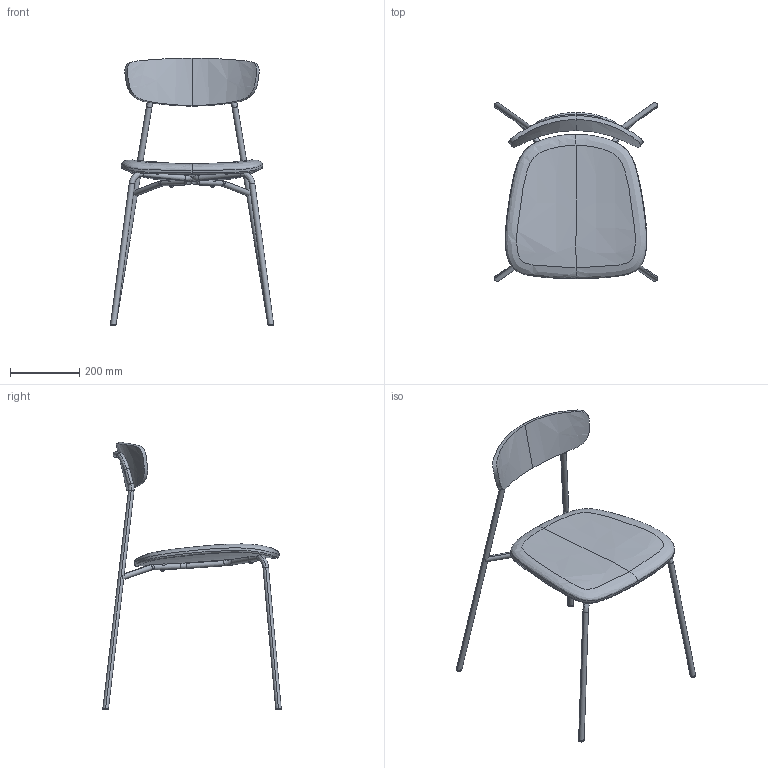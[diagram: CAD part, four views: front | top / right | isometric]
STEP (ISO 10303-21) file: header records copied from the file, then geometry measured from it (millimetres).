
FILE_DESCRIPTION(/* description */ (''),/* implementation_level */ '2;1');
FILE_NAME(/* name */ 'Trivi 126',/* time_stamp */ '2022-01-20T11:26:56+01:00',/* author */ (''),/* organization */ (''),/* preprocessor_version */ 'ST-DEVELOPER v16.5',/* originating_system */ 'Rhino 7.14',/* authorisation */ '');
FILE_SCHEMA (('CONFIG_CONTROL_DESIGN'));
Length unit declared in the file: millimetre
Products named in the file (1): Document
Bounding box: 472.22 x 516.08 x 772.73 mm (x, y, z)
Volume: 4450682.8 mm3; surface area: 611745.1 mm2
Topology: 12 solids, 19 shells, 174 faces, 365 edges, 224 vertices
Faces by surface type: plane 62, bspline 60, cylinder 52
Entity records: 8318 total; most frequent: CARTESIAN_POINT 5838, ORIENTED_EDGE 700, EDGE_CURVE 362, VERTEX_POINT 218, B_SPLINE_CURVE_WITH_KNOTS 179, EDGE_LOOP 178, ADVANCED_FACE 174, FACE_OUTER_BOUND 174
